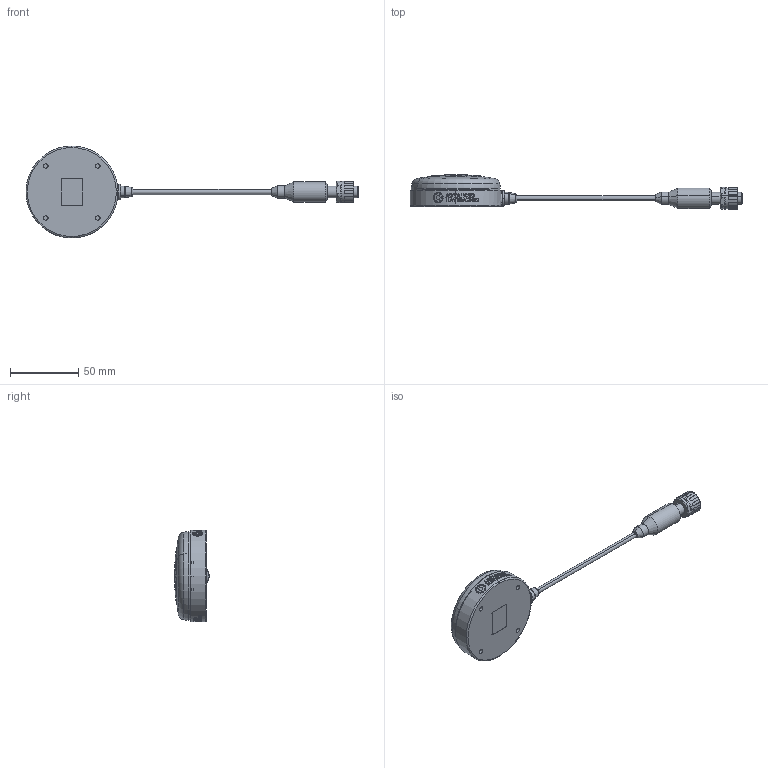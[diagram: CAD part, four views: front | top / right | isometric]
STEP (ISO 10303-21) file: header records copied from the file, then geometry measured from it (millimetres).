
FILE_DESCRIPTION (( 'STEP AP214' ), '1' );
FILE_NAME ('Poseidon Antenna V2.0 - Defeatured Assembly.STEP', '2018-02-19T06:33:10', ( 'admin' ), ( 'Hewlett-Packard Company' ), 'SwSTEP 2.0', 'SolidWorks 2015', '' );
FILE_SCHEMA (( 'AUTOMOTIVE_DESIGN' ));
Length unit declared in the file: millimetre
Products named in the file (6): poseidon molding - v2.0; poseidon base - v2.1; Poseidon Antenna V2.0 - Defeatured Assembly; molding cable boot; subsea coax cable; Subelectra - Plug
Assembly tree (5 placements, depth 2):
  Poseidon Antenna V2.0 - Defeatured Assembly
    poseidon base - v2.1
    poseidon molding - v2.0
    Subelectra - Plug
    subsea coax cable
    molding cable boot
Bounding box: 242.55 x 25.14 x 67 mm (x, y, z)
Volume: 84510.1 mm3; surface area: 24832 mm2
Topology: 5 solids, 5 shells, 841 faces, 2188 edges, 1436 vertices
Faces by surface type: bspline 351, plane 304, cylinder 137, torus 20, cone 15, sphere 14
Entity records: 36706 total; most frequent: CARTESIAN_POINT 17446, ORIENTED_EDGE 4372, DIRECTION 2604, EDGE_CURVE 2186, VERTEX_POINT 1436, B_SPLINE_CURVE_WITH_KNOTS 1100, AXIS2_PLACEMENT_3D 1020, EDGE_LOOP 926
